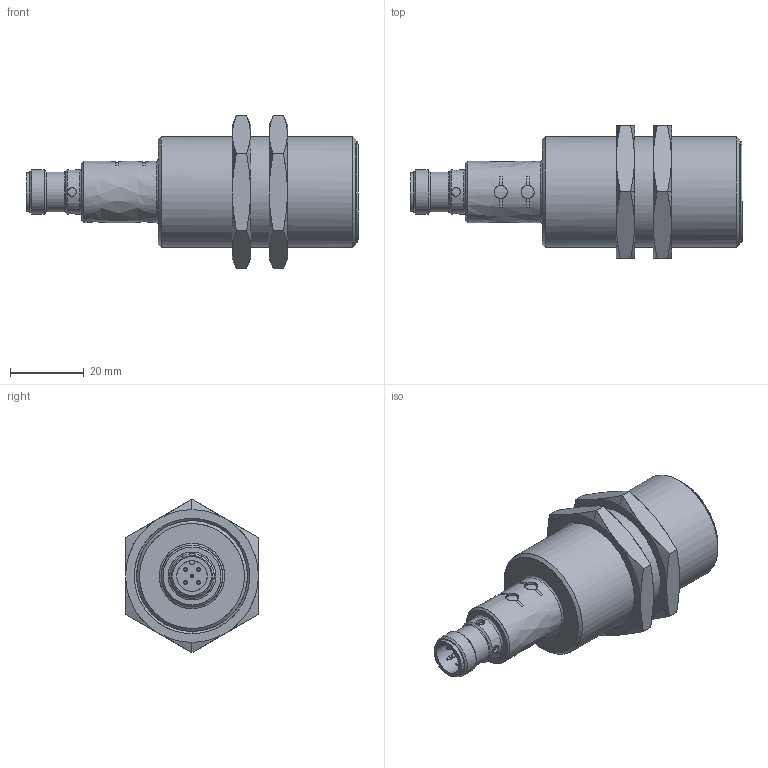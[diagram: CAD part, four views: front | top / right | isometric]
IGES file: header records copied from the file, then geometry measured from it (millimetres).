
Global section: file name: E:\lem\3DCAD_BR430B_M12.igs; native system: NX V8.5; preprocessor: SIEMENS PLM Software NX 8.5; date: 20141211.112238; units: millimetre
Bounding box: 90 x 36 x 41.57 mm (x, y, z)
Surface area: 11978.1 mm2 (no closed solid volume)
Topology: 0 solids, 0 shells, 132 faces, 961 edges, 946 vertices
Faces by surface type: bspline 132
